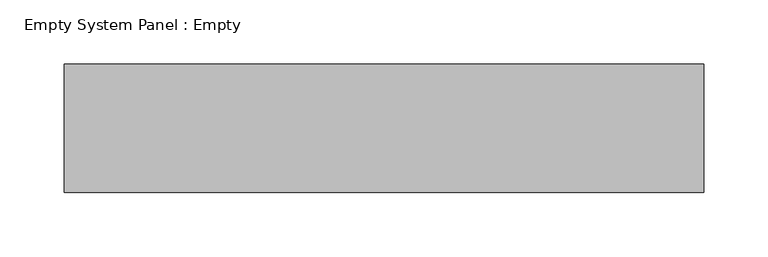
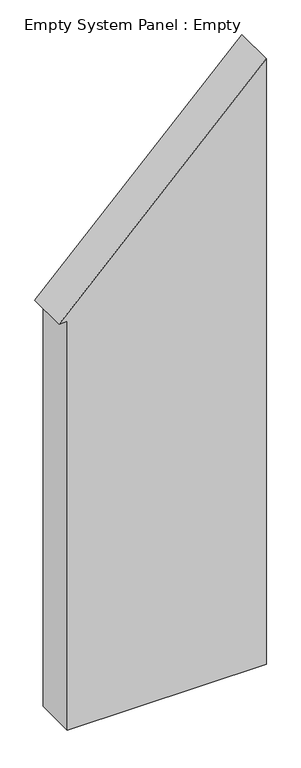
"""IFC4 building model written with IfcOpenShell, lengths in millimetres: plate geometry, Empty System Panel : Empty."""

import ifcopenshell
import ifcopenshell.guid

model = None  # the IFC model being written
_history = None  # IfcOwnerHistory: only IFC2X3 demands one
_inside = {}  # id of a spatial element -> (the spatial element, [elements in it])
_under = {}  # id of a project, library or spatial element -> (it, [spatial elements below it])
_declared = {}  # id of a project -> (the project, [libraries it declares])
_typed = {}  # id of a type object -> (the type object, [elements of that type])
_made_of = {}  # id of a material, layer set ... -> (it, [elements and type objects made of it])


def new_model(schema):
    """Start an empty IFC model of exactly this schema.

    Asked for "IFC4X3", IfcOpenShell would pick the latest addendum, in which some entities
    have other attributes; the version numbers below select the first issue.
    IFC2X3 requires an IfcOwnerHistory on every rooted entity: one is made here for all.
    """
    global model, _history
    if schema == "IFC4X3":
        model = ifcopenshell.file(schema_version=(4, 3, 0, 0))
    else:
        model = ifcopenshell.file(schema=schema)
    _inside.clear()
    _under.clear()
    _declared.clear()
    _typed.clear()
    _made_of.clear()
    _history = None
    if model.schema == "IFC2X3":
        org = make("IfcOrganization", Name="unknown")
        user = make(
            "IfcPersonAndOrganization",
            ThePerson=make("IfcPerson", FamilyName="unknown"),
            TheOrganization=org,
        )
        app = make(
            "IfcApplication",
            ApplicationDeveloper=org,
            Version="unknown",
            ApplicationFullName="unknown",
            ApplicationIdentifier="unknown",
        )
        _history = make(
            "IfcOwnerHistory",
            OwningUser=user,
            OwningApplication=app,
            ChangeAction="ADDED",
            CreationDate=0,
        )
    return model


def make(cls, **values):
    """One entity of the class cls with the attributes given. An attribute that is None is left unset."""
    return model.create_entity(
        cls, **{name: value for name, value in values.items() if value is not None}
    )


def rooted(cls, **values):
    """An entity with a GlobalId (a new one), such as an element, a storey or a relation."""
    return make(cls, GlobalId=ifcopenshell.guid.new(), OwnerHistory=_history, **values)


def si_unit(unit_type, name, prefix=None):
    """IfcSIUnit, for example si_unit("LENGTHUNIT", "METRE", prefix="MILLI")."""
    return make("IfcSIUnit", UnitType=unit_type, Prefix=prefix, Name=name)


def assignment(units):
    """IfcUnitAssignment: the units of a project."""
    return None if units is None else make("IfcUnitAssignment", Units=units)


def point(xyz):
    """IfcCartesianPoint."""
    return None if xyz is None else make("IfcCartesianPoint", Coordinates=xyz)


def direction(xyz):
    """IfcDirection."""
    return None if xyz is None else make("IfcDirection", DirectionRatios=xyz)


def frame(location, z_axis=None, x_axis=None):
    """IfcAxis2Placement3D, a coordinate frame: its origin and axes. An axis left out is left unset."""
    return make(
        "IfcAxis2Placement3D",
        Location=point(location),
        Axis=direction(z_axis),
        RefDirection=direction(x_axis),
    )


def origin():
    """The frame at (0, 0, 0) with its axes left unset."""
    return frame((0.0, 0.0, 0.0))


def place(relative_to, where):
    """IfcLocalPlacement: puts the frame where relative to a parent placement (None: the world)."""
    return make(
        "IfcLocalPlacement", PlacementRelTo=relative_to, RelativePlacement=where
    )


def context(
    kind, dimensions, precision=None, world=None, true_north=None, identifier=None
):
    """IfcGeometricRepresentationContext, for example the 3D "Model" context."""
    return make(
        "IfcGeometricRepresentationContext",
        ContextIdentifier=identifier,
        ContextType=kind,
        CoordinateSpaceDimension=dimensions,
        Precision=precision,
        WorldCoordinateSystem=world,
        TrueNorth=true_north,
    )


def project(units=None, contexts=None):
    """IfcProject with its units and contexts."""
    return rooted(
        "IfcProject",
        Name="project",
        RepresentationContexts=contexts,
        UnitsInContext=assignment(units),
    )


def spatial(cls, under=None, at=None, **own):
    """A site, building, storey or space (cls), placed at a placement, below another one or the project."""
    s = rooted(cls, ObjectPlacement=at, **own)
    if under is not None:
        _under.setdefault(under.id(), (under, []))[1].append(s)
    return s


def polyline(points):
    """IfcPolyline through the points."""
    return make("IfcPolyline", Points=[point(p) for p in points])


def outline(outer, holes=None, kind="AREA"):
    """IfcArbitraryClosedProfileDef: a profile drawn as a closed curve; with holes, ...WithVoids."""
    if holes is None:
        return make("IfcArbitraryClosedProfileDef", ProfileType=kind, OuterCurve=outer)
    return make(
        "IfcArbitraryProfileDefWithVoids",
        ProfileType=kind,
        OuterCurve=outer,
        InnerCurves=holes,
    )


def extrude(swept, where, along, depth):
    """IfcExtrudedAreaSolid: the profile swept, set in the frame where, extruded along a direction by depth."""
    return make(
        "IfcExtrudedAreaSolid",
        SweptArea=swept,
        Position=where,
        ExtrudedDirection=direction(along),
        Depth=depth,
    )


def shape(context_of_items, identifier, shape_type, items):
    """IfcShapeRepresentation: the items that make up one representation, for example the "Body"."""
    return make(
        "IfcShapeRepresentation",
        ContextOfItems=context_of_items,
        RepresentationIdentifier=identifier,
        RepresentationType=shape_type,
        Items=items,
    )


def source(mapping_origin, context_of_items, identifier, shape_type, items):
    """IfcRepresentationMap: a shape defined once, which mapped items show again and again."""
    return make(
        "IfcRepresentationMap",
        MappingOrigin=mapping_origin,
        MappedRepresentation=shape(context_of_items, identifier, shape_type, items),
    )


def transform(
    local_origin,
    x_axis=None,
    y_axis=None,
    z_axis=None,
    scale=None,
    scale2=None,
    scale3=None,
    uniform=True,
):
    """IfcCartesianTransformationOperator3D, or its non-uniform kind. x_axis, y_axis, z_axis: its Axis1, 2, 3."""
    if uniform:
        return make(
            "IfcCartesianTransformationOperator3D",
            Axis1=direction(x_axis),
            Axis2=direction(y_axis),
            LocalOrigin=point(local_origin),
            Scale=scale,
            Axis3=direction(z_axis),
        )
    return make(
        "IfcCartesianTransformationOperator3DnonUniform",
        Axis1=direction(x_axis),
        Axis2=direction(y_axis),
        LocalOrigin=point(local_origin),
        Scale=scale,
        Axis3=direction(z_axis),
        Scale2=scale2,
        Scale3=scale3,
    )


def mapped(mapping_source, mapping_target):
    """IfcMappedItem: shows the shape of a source again, moved by a transform."""
    return make(
        "IfcMappedItem", MappingSource=mapping_source, MappingTarget=mapping_target
    )


def made_of(thing, what):
    """Note that an element or type object is made of a material, layer set ...; save() writes the relation."""
    if what is not None:
        _made_of.setdefault(what.id(), (what, []))[1].append(thing)
    return thing


def element(
    cls,
    number,
    at=None,
    inside=None,
    cuts=None,
    type_object=None,
    material=None,
    context=None,
    identifier="Body",
    shape_type=None,
    held_by="IfcProductDefinitionShape",
    body=None,
    shapes=None,
    **own,
):
    """One element of the class cls, such as IfcWall. Its Tag is "e" and its number.

    at: its placement. inside: the storey or other place that contains it. cuts: it is an
    opening in that element (IfcRelVoidsElement). A single representation is given by context,
    identifier, shape_type and body (its items); several are given by shapes. held_by: the class
    of the entity that holds the representations. save() writes the other relations.
    """
    e = rooted(cls, Tag="e%d" % number, ObjectPlacement=at, **own)
    if body is not None:
        shapes = [shape(context, identifier, shape_type, body)]
    if shapes is not None:
        e.Representation = make(held_by, Representations=shapes)
    if inside is not None:
        _inside.setdefault(inside.id(), (inside, []))[1].append(e)
    if cuts is not None:
        rooted(
            "IfcRelVoidsElement", RelatingBuildingElement=cuts, RelatedOpeningElement=e
        )
    if type_object is not None:
        _typed.setdefault(type_object.id(), (type_object, []))[1].append(e)
    return made_of(e, material)


def aggregate(whole, parts):
    """IfcRelAggregates: a whole, such as a stair, and the parts it consists of."""
    return rooted("IfcRelAggregates", RelatingObject=whole, RelatedObjects=parts)


def save(model, path):
    """Write the relations noted so far, then the file.

    IfcRelAggregates (storeys below a building ...), IfcRelContainedInSpatialStructure (elements
    in a storey), IfcRelDefinesByType, IfcRelAssociatesMaterial and IfcRelDeclares: one each for
    every whole, place, type object, material and project.
    """
    for whole, parts in _under.values():
        aggregate(whole, parts)
    for where, things in _inside.values():
        rooted(
            "IfcRelContainedInSpatialStructure",
            RelatedElements=things,
            RelatingStructure=where,
        )
    for kind, things in _typed.values():
        rooted("IfcRelDefinesByType", RelatedObjects=things, RelatingType=kind)
    for what, things in _made_of.values():
        rooted("IfcRelAssociatesMaterial", RelatedObjects=things, RelatingMaterial=what)
    for by, libraries in _declared.values():
        rooted("IfcRelDeclares", RelatingContext=by, RelatedDefinitions=libraries)
    model.write(path)


def empty_system_panel_empty_231c4f5e(model_context):
    return source(origin(), model_context, "Body", "SweptSolid", [
        extrude(outline(polyline([(0.0, -228.680783), (0.0, 248.680783), (1534.1875265, 248.680783), (1036.1433181, -248.680783), (1036.1433181, -228.680783), (0.0, -228.680783)])), frame((0.0, -50.0, 0.0), z_axis=(0.0, 1.0, 0.0), x_axis=(0.0, 0.0, 1.0)), (0.0, 0.0, 1.0), 100.0),
    ])


if __name__ == "__main__":
    model = new_model("IFC4")
    model_context = context("Model", 3, world=origin())
    ifc_project = project(units=[si_unit("LENGTHUNIT", "METRE", prefix="MILLI")], contexts=[model_context])
    site = spatial("IfcSite", under=ifc_project)
    building = spatial("IfcBuilding", under=site)
    placement = place(None, origin())
    empty_system_panel_empty_shape = empty_system_panel_empty_231c4f5e(model_context)
    element("IfcPlate", 1, ObjectType="Empty System Panel : Empty", at=placement, inside=building, context=model_context, shape_type="MappedRepresentation", body=[
        mapped(empty_system_panel_empty_shape, transform((0.0, 0.0, 0.0), x_axis=(1.0, 0.0, 0.0), y_axis=(0.0, 1.0, 0.0), z_axis=(0.0, 0.0, 1.0))),
    ])
    save(model, "model.ifc")
